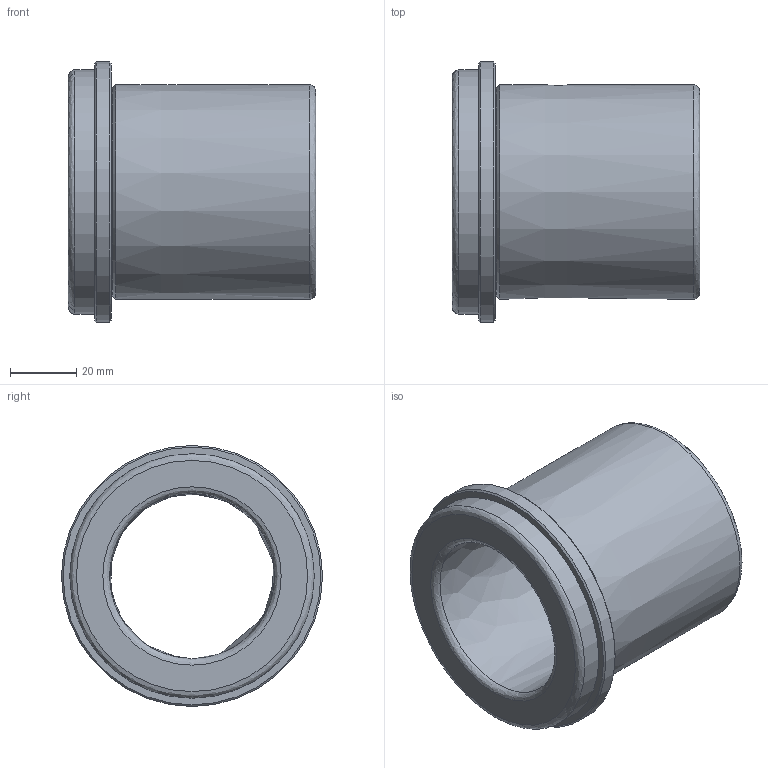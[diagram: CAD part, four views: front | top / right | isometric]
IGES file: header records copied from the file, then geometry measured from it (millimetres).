
Start section: Data from Parasolid IGES Translator 20.0.26, Copyright(c) 2006 Siemens P LM Software. All Rights Reserved.
Global section: file name: WZ - 4032 50 x 75.igs; native system: By Siemens PLM Incorporated; preprocessor: XPlus GENERIC/IGES 20.0.26; author: Noname; organization: Noname; date: 20201203.204307; units: inch
Bounding box: 75 x 79 x 79 mm (x, y, z)
Surface area: 33280.5 mm2 (no closed solid volume)
Topology: 0 solids, 0 shells, 19 faces, 70 edges, 47 vertices
Faces by surface type: revolution 14, extrusion 5
